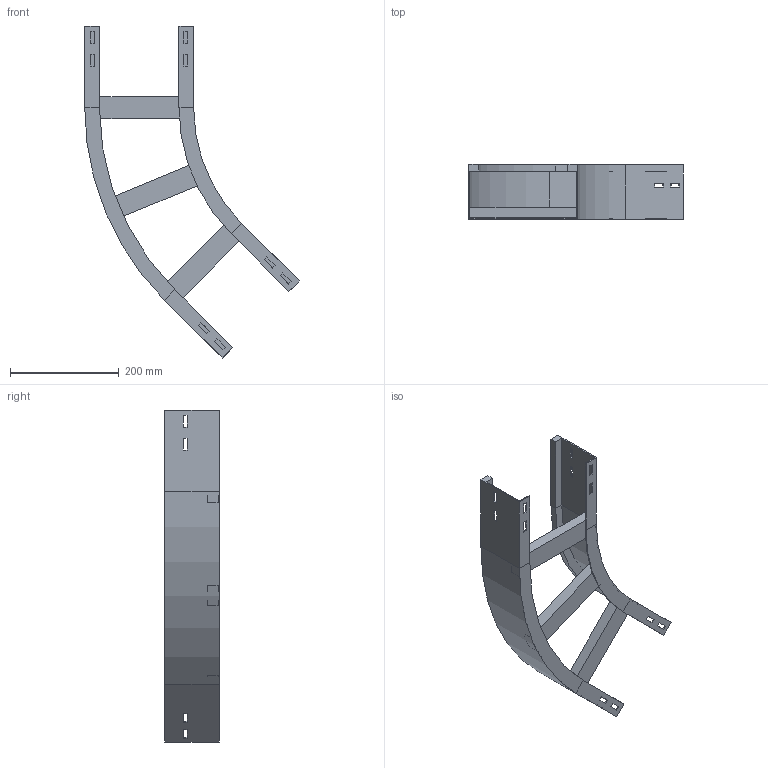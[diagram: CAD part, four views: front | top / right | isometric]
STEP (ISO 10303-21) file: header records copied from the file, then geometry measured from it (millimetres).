
FILE_DESCRIPTION (( 'STEP AP214' ), '1' );
FILE_NAME ('A2_11B3D200.step', '2025-02-21T15:12:16', ( '' ), ( '' ), 'SwSTEP 2.0', 'SolidWorks 2023', '' );
FILE_SCHEMA (( 'AUTOMOTIVE_DESIGN' ));
Length unit declared in the file: millimetre
Products named in the file (4): A2_LONGH.INTERNO 45°_H100_R300; A2_LONGH.ESTERNO 45°_H100_R300+200; A2_11B3D200; TRAVERSINO_200
Assembly tree (5 placements, depth 2):
  A2_11B3D200
    A2_LONGH.INTERNO 45°_H100_R300
    A2_LONGH.ESTERNO 45°_H100_R300+200
    TRAVERSINO_200  x3
Bounding box: 393.93 x 100 x 609.62 mm (x, y, z)
Volume: 1014268.8 mm3; surface area: 426003.1 mm2
Topology: 5 solids, 5 shells, 134 faces, 340 edges, 216 vertices
Faces by surface type: plane 126, cylinder 8
Entity records: 3821 total; most frequent: CARTESIAN_POINT 646, ORIENTED_EDGE 632, DIRECTION 592, EDGE_CURVE 316, VECTOR 300, LINE 300, VERTEX_POINT 200, EDGE_LOOP 154
